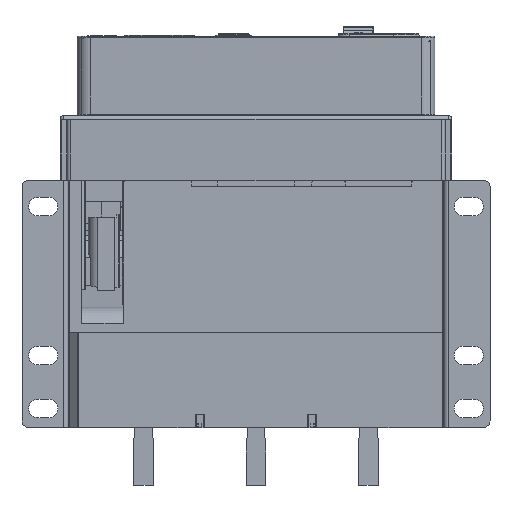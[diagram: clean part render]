
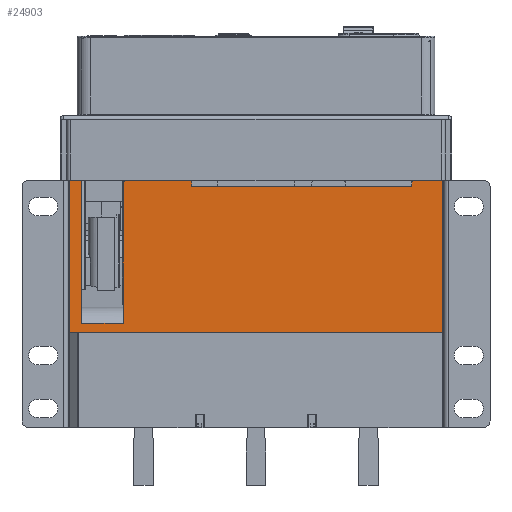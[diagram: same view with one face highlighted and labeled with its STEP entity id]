
A CAD part, front view. The second image highlights one B-rep face of the part: STEP entity #24903.
In plain terms, the highlighted planar face has unit normal (0, -1, 0).
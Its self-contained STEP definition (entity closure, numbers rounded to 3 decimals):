
#3291=DIRECTION('',(1.,0.,0.));
#3292=VECTOR('',#3291,281.);
#3293=CARTESIAN_POINT('',(-309.969,-639.732,
38.8));
#3294=LINE('',#3293,#3292);
#3581=DIRECTION('',(-1.,0.,0.));
#3582=VECTOR('',#3581,8.7);
#3583=CARTESIAN_POINT('',(-301.269,-639.732,
153.8));
#3584=LINE('',#3583,#3582);
#3638=DIRECTION('',(0.,0.,1.));
#3639=VECTOR('',#3638,108.);
#3640=CARTESIAN_POINT('',(-301.269,-639.732,
45.8));
#3641=LINE('',#3640,#3639);
#3646=DIRECTION('',(1.,0.,0.));
#3647=VECTOR('',#3646,31.7);
#3648=CARTESIAN_POINT('',(-301.269,-639.732,
45.8));
#3649=LINE('',#3648,#3647);
#3650=DIRECTION('',(0.,0.,1.));
#3651=VECTOR('',#3650,106.);
#3652=CARTESIAN_POINT('',(-269.569,-639.732,
45.8));
#3653=LINE('',#3652,#3651);
#3654=CARTESIAN_POINT('',(-267.569,-639.732,
151.8));
#3655=DIRECTION('',(0.,1.,0.));
#3656=DIRECTION('',(-1.,0.,0.));
#3657=AXIS2_PLACEMENT_3D('',#3654,#3655,#3656);
#3659=DIRECTION('',(1.,0.,0.));
#3660=VECTOR('',#3659,10.);
#3661=CARTESIAN_POINT('',(-267.569,-639.732,
153.8));
#3662=LINE('',#3661,#3660);
#3663=DIRECTION('',(0.,0.,1.));
#3664=VECTOR('',#3663,1.);
#3665=CARTESIAN_POINT('',(-257.569,-639.732,
153.8));
#3666=LINE('',#3665,#3664);
#3667=DIRECTION('',(1.,0.,0.));
#3668=VECTOR('',#3667,9.3);
#3669=CARTESIAN_POINT('',(-257.569,-639.732,
154.8));
#3670=LINE('',#3669,#3668);
#3671=DIRECTION('',(0.,0.,-1.));
#3672=VECTOR('',#3671,1.);
#3673=CARTESIAN_POINT('',(-248.269,-639.732,
154.8));
#3674=LINE('',#3673,#3672);
#3675=DIRECTION('',(1.,0.,0.));
#3676=VECTOR('',#3675,12.4);
#3677=CARTESIAN_POINT('',(-248.269,-639.732,
153.8));
#3678=LINE('',#3677,#3676);
#3679=DIRECTION('',(0.,0.,1.));
#3680=VECTOR('',#3679,1.);
#3681=CARTESIAN_POINT('',(-235.869,-639.732,
153.8));
#3682=LINE('',#3681,#3680);
#3683=DIRECTION('',(1.,0.,0.));
#3684=VECTOR('',#3683,2.8);
#3685=CARTESIAN_POINT('',(-235.869,-639.732,
154.8));
#3686=LINE('',#3685,#3684);
#3687=DIRECTION('',(0.,0.,-1.));
#3688=VECTOR('',#3687,1.);
#3689=CARTESIAN_POINT('',(-233.069,-639.732,
154.8));
#3690=LINE('',#3689,#3688);
#3691=DIRECTION('',(1.,0.,0.));
#3692=VECTOR('',#3691,13.1);
#3693=CARTESIAN_POINT('',(-233.069,-639.732,
153.8));
#3694=LINE('',#3693,#3692);
#3695=CARTESIAN_POINT('',(-219.969,-639.732,
151.8));
#3696=DIRECTION('',(0.,1.,0.));
#3697=DIRECTION('',(0.,0.,1.));
#3698=AXIS2_PLACEMENT_3D('',#3695,#3696,#3697);
#3700=DIRECTION('',(0.,0.,-1.));
#3701=VECTOR('',#3700,3.);
#3702=CARTESIAN_POINT('',(-217.969,-639.732,
151.8));
#3703=LINE('',#3702,#3701);
#3704=DIRECTION('',(0.,0.,1.));
#3705=VECTOR('',#3704,3.);
#3706=CARTESIAN_POINT('',(-51.969,-639.732,
148.8));
#3707=LINE('',#3706,#3705);
#3708=CARTESIAN_POINT('',(-49.969,-639.732,
151.8));
#3709=DIRECTION('',(0.,1.,0.));
#3710=DIRECTION('',(-1.,0.,0.));
#3711=AXIS2_PLACEMENT_3D('',#3708,#3709,#3710);
#3713=DIRECTION('',(1.,0.,0.));
#3714=VECTOR('',#3713,21.);
#3715=CARTESIAN_POINT('',(-49.969,-639.732,
153.8));
#3716=LINE('',#3715,#3714);
#13543=DIRECTION('',(0.,0.,-1.));
#13544=VECTOR('',#13543,115.);
#13545=CARTESIAN_POINT('',(-309.969,-639.732,
153.8));
#13546=LINE('',#13545,#13544);
#14147=DIRECTION('',(-1.,0.,0.));
#14148=VECTOR('',#14147,166.);
#14149=CARTESIAN_POINT('',(-51.969,-639.732,
148.8));
#14150=LINE('',#14149,#14148);
#14782=DIRECTION('',(0.,0.,1.));
#14783=VECTOR('',#14782,115.);
#14784=CARTESIAN_POINT('',(-28.969,-639.732,
38.8));
#14785=LINE('',#14784,#14783);
#17963=CARTESIAN_POINT('',(-309.969,-639.732,
38.8));
#17964=VERTEX_POINT('',#17963);
#17965=CARTESIAN_POINT('',(-28.969,-639.732,
38.8));
#17966=VERTEX_POINT('',#17965);
#18083=CARTESIAN_POINT('',(-301.269,-639.732,
153.8));
#18084=VERTEX_POINT('',#18083);
#18085=CARTESIAN_POINT('',(-309.969,-639.732,
153.8));
#18086=VERTEX_POINT('',#18085);
#18105=CARTESIAN_POINT('',(-301.269,-639.732,
45.8));
#18106=VERTEX_POINT('',#18105);
#18107=CARTESIAN_POINT('',(-269.569,-639.732,
45.8));
#18108=VERTEX_POINT('',#18107);
#18109=CARTESIAN_POINT('',(-269.569,-639.732,
151.8));
#18110=VERTEX_POINT('',#18109);
#18111=CARTESIAN_POINT('',(-267.569,-639.732,
153.8));
#18112=VERTEX_POINT('',#18111);
#18113=CARTESIAN_POINT('',(-257.569,-639.732,
153.8));
#18114=VERTEX_POINT('',#18113);
#18115=CARTESIAN_POINT('',(-257.569,-639.732,
154.8));
#18116=VERTEX_POINT('',#18115);
#18117=CARTESIAN_POINT('',(-248.269,-639.732,
154.8));
#18118=VERTEX_POINT('',#18117);
#18119=CARTESIAN_POINT('',(-248.269,-639.732,
153.8));
#18120=VERTEX_POINT('',#18119);
#18121=CARTESIAN_POINT('',(-235.869,-639.732,
153.8));
#18122=VERTEX_POINT('',#18121);
#18123=CARTESIAN_POINT('',(-235.869,-639.732,
154.8));
#18124=VERTEX_POINT('',#18123);
#18125=CARTESIAN_POINT('',(-233.069,-639.732,
154.8));
#18126=VERTEX_POINT('',#18125);
#18127=CARTESIAN_POINT('',(-233.069,-639.732,
153.8));
#18128=VERTEX_POINT('',#18127);
#18129=CARTESIAN_POINT('',(-219.969,-639.732,
153.8));
#18130=VERTEX_POINT('',#18129);
#18131=CARTESIAN_POINT('',(-217.969,-639.732,
151.8));
#18132=VERTEX_POINT('',#18131);
#18133=CARTESIAN_POINT('',(-217.969,-639.732,
148.8));
#18134=VERTEX_POINT('',#18133);
#18135=CARTESIAN_POINT('',(-51.969,-639.732,
148.8));
#18136=VERTEX_POINT('',#18135);
#18137=CARTESIAN_POINT('',(-51.969,-639.732,
151.8));
#18138=VERTEX_POINT('',#18137);
#18139=CARTESIAN_POINT('',(-49.969,-639.732,
153.8));
#18140=VERTEX_POINT('',#18139);
#18141=CARTESIAN_POINT('',(-28.969,-639.732,
153.8));
#18142=VERTEX_POINT('',#18141);
#24854=CARTESIAN_POINT('',(-311.469,-639.732,
38.3));
#24855=DIRECTION('',(0.,-1.,0.));
#24856=DIRECTION('',(1.,0.,0.));
#24857=AXIS2_PLACEMENT_3D('',#24854,#24855,#24856);
#24858=PLANE('',#24857);
#24859=ORIENTED_EDGE('',*,*,#24784,.F.);
#24860=ORIENTED_EDGE('',*,*,#24847,.F.);
#24861=ORIENTED_EDGE('',*,*,#24836,.T.);
#24863=ORIENTED_EDGE('',*,*,#24862,.T.);
#24865=ORIENTED_EDGE('',*,*,#24864,.T.);
#24867=ORIENTED_EDGE('',*,*,#24866,.T.);
#24869=ORIENTED_EDGE('',*,*,#24868,.T.);
#24871=ORIENTED_EDGE('',*,*,#24870,.T.);
#24873=ORIENTED_EDGE('',*,*,#24872,.T.);
#24875=ORIENTED_EDGE('',*,*,#24874,.T.);
#24877=ORIENTED_EDGE('',*,*,#24876,.T.);
#24879=ORIENTED_EDGE('',*,*,#24878,.T.);
#24881=ORIENTED_EDGE('',*,*,#24880,.T.);
#24883=ORIENTED_EDGE('',*,*,#24882,.T.);
#24885=ORIENTED_EDGE('',*,*,#24884,.T.);
#24887=ORIENTED_EDGE('',*,*,#24886,.T.);
#24889=ORIENTED_EDGE('',*,*,#24888,.F.);
#24891=ORIENTED_EDGE('',*,*,#24890,.T.);
#24893=ORIENTED_EDGE('',*,*,#24892,.T.);
#24895=ORIENTED_EDGE('',*,*,#24894,.T.);
#24897=ORIENTED_EDGE('',*,*,#24896,.F.);
#24898=ORIENTED_EDGE('',*,*,#24619,.F.);
#24900=ORIENTED_EDGE('',*,*,#24899,.F.);
#24901=EDGE_LOOP('',(#24859,#24860,#24861,#24863,#24865,#24867,#24869,#24871,
#24873,#24875,#24877,#24879,#24881,#24883,#24885,#24887,#24889,#24891,#24893,
#24895,#24897,#24898,#24900));
#24902=FACE_OUTER_BOUND('',#24901,.F.);
#24903=ADVANCED_FACE('',(#24902),#24858,.T.);
#3658=CIRCLE('',#3657,2.);
#3699=CIRCLE('',#3698,2.);
#3712=CIRCLE('',#3711,2.);
#24619=EDGE_CURVE('',#17964,#17966,#3294,.T.);
#24784=EDGE_CURVE('',#18084,#18086,#3584,.T.);
#24836=EDGE_CURVE('',#18106,#18108,#3649,.T.);
#24847=EDGE_CURVE('',#18106,#18084,#3641,.T.);
#24862=EDGE_CURVE('',#18108,#18110,#3653,.T.);
#24864=EDGE_CURVE('',#18110,#18112,#3658,.T.);
#24866=EDGE_CURVE('',#18112,#18114,#3662,.T.);
#24868=EDGE_CURVE('',#18114,#18116,#3666,.T.);
#24870=EDGE_CURVE('',#18116,#18118,#3670,.T.);
#24872=EDGE_CURVE('',#18118,#18120,#3674,.T.);
#24874=EDGE_CURVE('',#18120,#18122,#3678,.T.);
#24876=EDGE_CURVE('',#18122,#18124,#3682,.T.);
#24878=EDGE_CURVE('',#18124,#18126,#3686,.T.);
#24880=EDGE_CURVE('',#18126,#18128,#3690,.T.);
#24882=EDGE_CURVE('',#18128,#18130,#3694,.T.);
#24884=EDGE_CURVE('',#18130,#18132,#3699,.T.);
#24886=EDGE_CURVE('',#18132,#18134,#3703,.T.);
#24888=EDGE_CURVE('',#18136,#18134,#14150,.T.);
#24890=EDGE_CURVE('',#18136,#18138,#3707,.T.);
#24892=EDGE_CURVE('',#18138,#18140,#3712,.T.);
#24894=EDGE_CURVE('',#18140,#18142,#3716,.T.);
#24896=EDGE_CURVE('',#17966,#18142,#14785,.T.);
#24899=EDGE_CURVE('',#18086,#17964,#13546,.T.);
